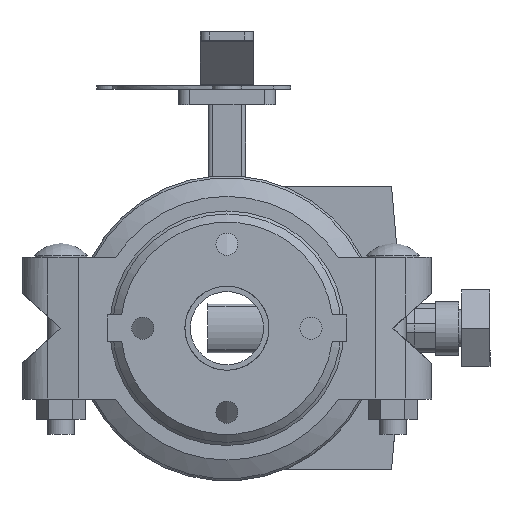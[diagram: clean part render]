
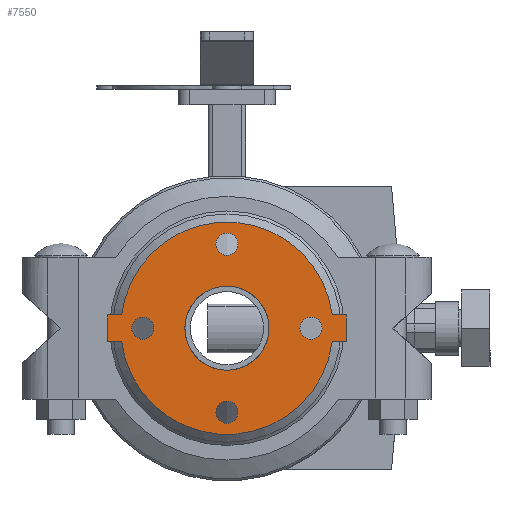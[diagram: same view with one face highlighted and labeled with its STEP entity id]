
A CAD part, front view. The second image highlights one B-rep face of the part: STEP entity #7550.
In plain terms, the highlighted planar face has unit normal (0, -1, 0) as drawn and (0, 0, -1) by its records, which use the part's own axes.
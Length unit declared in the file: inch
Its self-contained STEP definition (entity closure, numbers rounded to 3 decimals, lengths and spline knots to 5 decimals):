
#171=FACE_BOUND('',#932,.T.);
#172=FACE_BOUND('',#933,.T.);
#173=FACE_BOUND('',#934,.T.);
#174=FACE_BOUND('',#935,.T.);
#175=FACE_BOUND('',#936,.T.);
#264=PLANE('',#8177);
#512=FACE_OUTER_BOUND('',#931,.T.);
#931=EDGE_LOOP('',(#4836,#4837,#4838,#4839,#4840,#4841,#4842,#4843));
#932=EDGE_LOOP('',(#4844));
#933=EDGE_LOOP('',(#4845));
#934=EDGE_LOOP('',(#4846));
#935=EDGE_LOOP('',(#4847));
#936=EDGE_LOOP('',(#4848,#4849));
#1443=LINE('',#11453,#2017);
#1444=LINE('',#11455,#2018);
#1445=LINE('',#11457,#2019);
#1446=LINE('',#11461,#2020);
#1447=LINE('',#11463,#2021);
#1448=LINE('',#11464,#2022);
#2017=VECTOR('',#9094,0.3937);
#2018=VECTOR('',#9095,0.3937);
#2019=VECTOR('',#9096,0.3937);
#2020=VECTOR('',#9099,0.3937);
#2021=VECTOR('',#9100,0.3937);
#2022=VECTOR('',#9101,0.3937);
#2588=CIRCLE('',#8167,0.3125);
#2590=CIRCLE('',#8170,0.3125);
#2592=CIRCLE('',#8173,0.3125);
#2594=CIRCLE('',#8176,0.3125);
#2595=CIRCLE('',#8178,3.);
#2596=CIRCLE('',#8179,3.);
#2597=CIRCLE('',#8180,1.1875);
#2598=CIRCLE('',#8181,1.1875);
#3021=VERTEX_POINT('',#11427);
#3023=VERTEX_POINT('',#11433);
#3025=VERTEX_POINT('',#11439);
#3027=VERTEX_POINT('',#11445);
#3028=VERTEX_POINT('',#11449);
#3029=VERTEX_POINT('',#11450);
#3030=VERTEX_POINT('',#11452);
#3031=VERTEX_POINT('',#11454);
#3032=VERTEX_POINT('',#11456);
#3033=VERTEX_POINT('',#11458);
#3034=VERTEX_POINT('',#11460);
#3035=VERTEX_POINT('',#11462);
#3036=VERTEX_POINT('',#11465);
#3037=VERTEX_POINT('',#11466);
#3747=EDGE_CURVE('',#3021,#3021,#2588,.T.);
#3750=EDGE_CURVE('',#3023,#3023,#2590,.T.);
#3753=EDGE_CURVE('',#3025,#3025,#2592,.T.);
#3756=EDGE_CURVE('',#3027,#3027,#2594,.T.);
#3757=EDGE_CURVE('',#3028,#3029,#2595,.T.);
#3758=EDGE_CURVE('',#3029,#3030,#1443,.T.);
#3759=EDGE_CURVE('',#3030,#3031,#1444,.T.);
#3760=EDGE_CURVE('',#3031,#3032,#1445,.T.);
#3761=EDGE_CURVE('',#3032,#3033,#2596,.T.);
#3762=EDGE_CURVE('',#3033,#3034,#1446,.T.);
#3763=EDGE_CURVE('',#3034,#3035,#1447,.T.);
#3764=EDGE_CURVE('',#3035,#3028,#1448,.T.);
#3765=EDGE_CURVE('',#3036,#3037,#2597,.T.);
#3766=EDGE_CURVE('',#3037,#3036,#2598,.T.);
#4836=ORIENTED_EDGE('',*,*,#3757,.T.);
#4837=ORIENTED_EDGE('',*,*,#3758,.T.);
#4838=ORIENTED_EDGE('',*,*,#3759,.T.);
#4839=ORIENTED_EDGE('',*,*,#3760,.T.);
#4840=ORIENTED_EDGE('',*,*,#3761,.T.);
#4841=ORIENTED_EDGE('',*,*,#3762,.T.);
#4842=ORIENTED_EDGE('',*,*,#3763,.T.);
#4843=ORIENTED_EDGE('',*,*,#3764,.T.);
#4844=ORIENTED_EDGE('',*,*,#3747,.T.);
#4845=ORIENTED_EDGE('',*,*,#3750,.T.);
#4846=ORIENTED_EDGE('',*,*,#3753,.T.);
#4847=ORIENTED_EDGE('',*,*,#3756,.T.);
#4848=ORIENTED_EDGE('',*,*,#3765,.T.);
#4849=ORIENTED_EDGE('',*,*,#3766,.T.);
#7550=ADVANCED_FACE('',(#512,#171,#172,#173,#174,#175),#264,.T.);
#8167=AXIS2_PLACEMENT_3D('',#11429,#9067,#9068);
#8170=AXIS2_PLACEMENT_3D('',#11435,#9074,#9075);
#8173=AXIS2_PLACEMENT_3D('',#11441,#9081,#9082);
#8176=AXIS2_PLACEMENT_3D('',#11447,#9088,#9089);
#8177=AXIS2_PLACEMENT_3D('',#11448,#9090,#9091);
#8178=AXIS2_PLACEMENT_3D('',#11451,#9092,#9093);
#8179=AXIS2_PLACEMENT_3D('',#11459,#9097,#9098);
#8180=AXIS2_PLACEMENT_3D('',#11467,#9102,#9103);
#8181=AXIS2_PLACEMENT_3D('',#11468,#9104,#9105);
#9067=DIRECTION('center_axis',(0.,0.,1.));
#9068=DIRECTION('ref_axis',(0.,1.,0.));
#9074=DIRECTION('center_axis',(0.,0.,1.));
#9075=DIRECTION('ref_axis',(1.,0.,0.));
#9081=DIRECTION('center_axis',(0.,0.,1.));
#9082=DIRECTION('ref_axis',(0.,-1.,0.));
#9088=DIRECTION('center_axis',(0.,0.,1.));
#9089=DIRECTION('ref_axis',(-1.,0.,0.));
#9090=DIRECTION('center_axis',(0.,0.,-1.));
#9091=DIRECTION('ref_axis',(-1.,0.,0.));
#9092=DIRECTION('center_axis',(0.,0.,-1.));
#9093=DIRECTION('ref_axis',(-1.,0.,0.));
#9094=DIRECTION('',(0.,1.,0.));
#9095=DIRECTION('',(1.,0.,0.));
#9096=DIRECTION('',(0.,-1.,0.));
#9097=DIRECTION('center_axis',(0.,0.,-1.));
#9098=DIRECTION('ref_axis',(-1.,0.,0.));
#9099=DIRECTION('',(0.,-1.,0.));
#9100=DIRECTION('',(-1.,0.,0.));
#9101=DIRECTION('',(0.,1.,0.));
#9102=DIRECTION('center_axis',(0.,0.,1.));
#9103=DIRECTION('ref_axis',(-1.,0.,0.));
#9104=DIRECTION('center_axis',(0.,0.,1.));
#9105=DIRECTION('ref_axis',(-1.,0.,0.));
#11427=CARTESIAN_POINT('',(0.,2.0625,-0.375));
#11429=CARTESIAN_POINT('Origin',(0.,2.375,-0.375));
#11433=CARTESIAN_POINT('',(2.0625,0.,-0.375));
#11435=CARTESIAN_POINT('Origin',(2.375,0.,-0.375));
#11439=CARTESIAN_POINT('',(0.,-2.0625,-0.375));
#11441=CARTESIAN_POINT('Origin',(0.,-2.375,-0.375));
#11445=CARTESIAN_POINT('',(-2.0625,0.,-0.375));
#11447=CARTESIAN_POINT('Origin',(-2.375,0.,-0.375));
#11448=CARTESIAN_POINT('Origin',(0.,0.,-0.375));
#11449=CARTESIAN_POINT('',(-0.375,-2.97647,-0.375));
#11450=CARTESIAN_POINT('',(-0.375,2.97647,-0.375));
#11451=CARTESIAN_POINT('Origin',(0.,0.,-0.375));
#11452=CARTESIAN_POINT('',(-0.375,3.375,-0.375));
#11453=CARTESIAN_POINT('',(-0.375,-3.375,-0.375));
#11454=CARTESIAN_POINT('',(0.375,3.375,-0.375));
#11455=CARTESIAN_POINT('',(-0.375,3.375,-0.375));
#11456=CARTESIAN_POINT('',(0.375,2.97647,-0.375));
#11457=CARTESIAN_POINT('',(0.375,3.375,-0.375));
#11458=CARTESIAN_POINT('',(0.375,-2.97647,-0.375));
#11459=CARTESIAN_POINT('Origin',(0.,0.,-0.375));
#11460=CARTESIAN_POINT('',(0.375,-3.375,-0.375));
#11461=CARTESIAN_POINT('',(0.375,3.375,-0.375));
#11462=CARTESIAN_POINT('',(-0.375,-3.375,-0.375));
#11463=CARTESIAN_POINT('',(0.375,-3.375,-0.375));
#11464=CARTESIAN_POINT('',(-0.375,-3.375,-0.375));
#11465=CARTESIAN_POINT('',(0.375,1.12673,-0.375));
#11466=CARTESIAN_POINT('',(1.1875,0.,-0.375));
#11467=CARTESIAN_POINT('Origin',(0.,0.,-0.375));
#11468=CARTESIAN_POINT('Origin',(0.,0.,-0.375));
